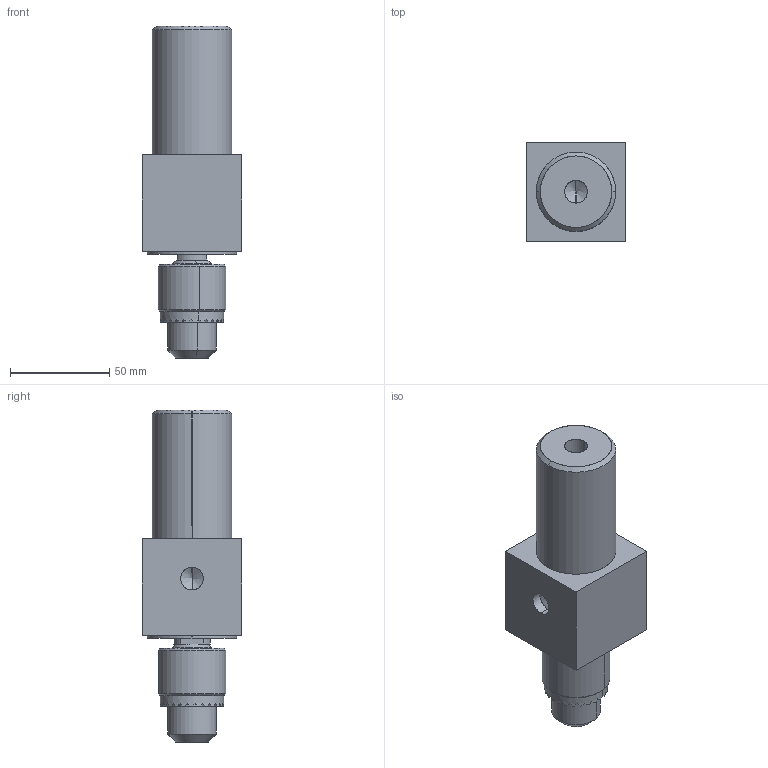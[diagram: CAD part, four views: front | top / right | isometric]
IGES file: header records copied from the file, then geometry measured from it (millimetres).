
Start section: SolidWorks IGES file using analytic representation for surfaces
Global section: file name: R:\Inventor\Kundmodeller Solidworks\BE22SK BE33SK BEP22SK\BE3326-33210SK with keychuck 0,8-10,0mm.IGS; native system: SolidWorks 2008; preprocessor: SolidWorks 2008; author: Johan; date: 091015.093451; units: millimetre
Bounding box: 50 x 50 x 167.4 mm (x, y, z)
Surface area: 33343 mm2 (no closed solid volume)
Topology: 0 solids, 0 shells, 177 faces, 1765 edges, 1751 vertices
Faces by surface type: bspline 121, revolution 56
